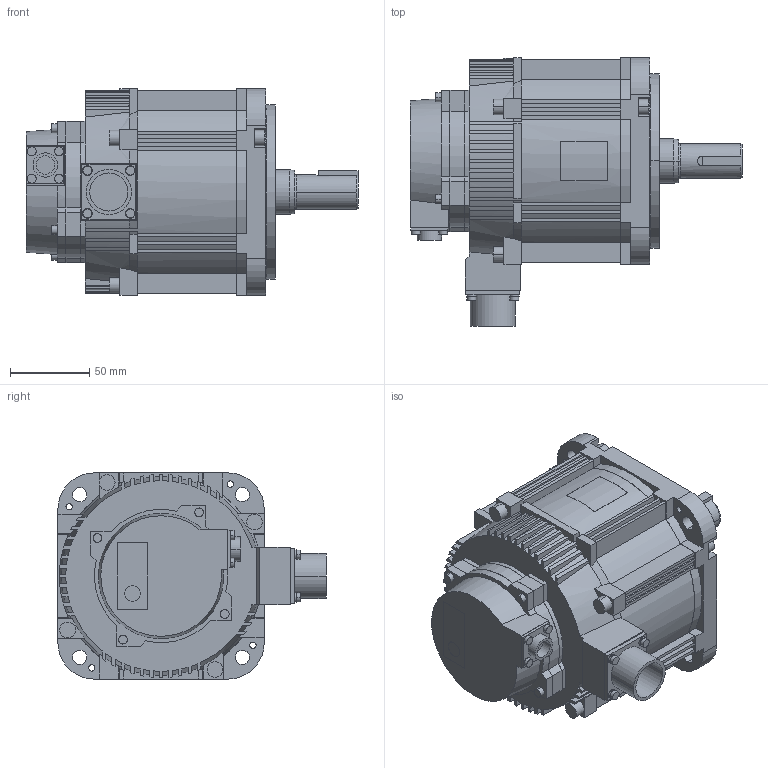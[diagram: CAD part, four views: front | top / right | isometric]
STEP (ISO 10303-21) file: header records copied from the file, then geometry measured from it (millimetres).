
FILE_DESCRIPTION( (''), '2;1');
FILE_NAME ('SGMXG-13AUA61C2.stp','2022-03-02T11:32:04',(''),(''),'spGate 15.6.6','','');
FILE_SCHEMA (('AUTOMOTIVE_DESIGN'));
Length unit declared in the file: millimetre
Products named in the file (3): Assembly; SGMXG-13AUA61C2-prt0; SGMXG-13AUA61C2-prt1
Assembly tree (2 placements, depth 2):
  Assembly
    SGMXG-13AUA61C2-prt0
    SGMXG-13AUA61C2-prt1
Bounding box: 209.2 x 169 x 130 mm (x, y, z)
Volume: 1810234.3 mm3; surface area: 143957.7 mm2
Topology: 2 solids, 2 shells, 667 faces, 1812 edges, 1196 vertices
Faces by surface type: plane 414, cylinder 188, bspline 65
Entity records: 35611 total; most frequent: CARTESIAN_POINT 4475, ORIENTED_EDGE 3624, DIRECTION 3435, COLOUR_RGB 2481, PRESENTATION_STYLE_ASSIGNMENT 2481, STYLED_ITEM 2481, EDGE_CURVE 1812, DRAUGHTING_PRE_DEFINED_CURVE_FONT 1812
